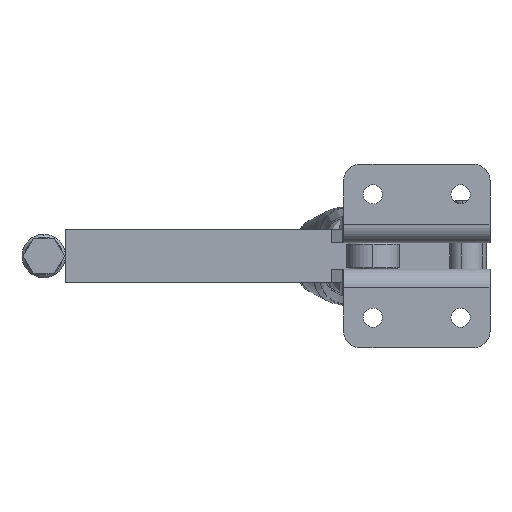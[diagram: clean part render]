
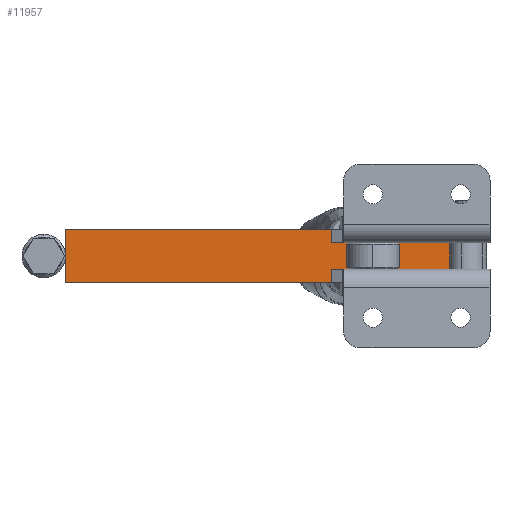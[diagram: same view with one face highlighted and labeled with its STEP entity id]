
A CAD part, front view. The second image highlights one B-rep face of the part: STEP entity #11957.
In plain terms, the highlighted planar face has unit normal (0.001, -1, 0).
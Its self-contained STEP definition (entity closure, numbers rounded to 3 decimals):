
#8 = ORIENTED_EDGE ( 'NONE', *, *, #13765, .T. ) ;
#503 = EDGE_CURVE ( 'NONE', #1198, #13171, #17092, .T. ) ;
#758 = EDGE_CURVE ( 'NONE', #13171, #8190, #9251, .T. ) ;
#1198 = VERTEX_POINT ( 'NONE', #22774 ) ;
#1246 = VECTOR ( 'NONE', #14734, 1000. ) ;
#2374 = EDGE_CURVE ( 'NONE', #10499, #1198, #18229, .T. ) ;
#3147 = VECTOR ( 'NONE', #6697, 1000. ) ;
#4389 = DIRECTION ( 'NONE',  ( 0., 0., 1. ) ) ;
#4405 = ORIENTED_EDGE ( 'NONE', *, *, #12659, .T. ) ;
#4504 = PLANE ( 'NONE',  #12157 ) ;
#6209 = LINE ( 'NONE', #9102, #1246 ) ;
#6326 = CARTESIAN_POINT ( 'NONE',  ( -9.525, -9.525, 0. ) ) ;
#6378 = DIRECTION ( 'NONE',  ( 0., -1., 0. ) ) ;
#6697 = DIRECTION ( 'NONE',  ( 1., 0., 0. ) ) ;
#6798 = DIRECTION ( 'NONE',  ( 1., 0., 0. ) ) ;
#7306 = VECTOR ( 'NONE', #4389, 1000. ) ;
#7426 = VERTEX_POINT ( 'NONE', #14351 ) ;
#8010 = VERTEX_POINT ( 'NONE', #23392 ) ;
#8190 = VERTEX_POINT ( 'NONE', #13271 ) ;
#8372 = VECTOR ( 'NONE', #10321, 1000. ) ;
#8902 = CARTESIAN_POINT ( 'NONE',  ( -9.525, -9.525, -4.775 ) ) ;
#9102 = CARTESIAN_POINT ( 'NONE',  ( -56.49, -9.525, -4.775 ) ) ;
#9251 = LINE ( 'NONE', #13681, #18524 ) ;
#9280 = LINE ( 'NONE', #17364, #18556 ) ;
#9571 = CARTESIAN_POINT ( 'NONE',  ( -153.8, -9.525, -19.05 ) ) ;
#10321 = DIRECTION ( 'NONE',  ( 0., 0., 1. ) ) ;
#10344 = CARTESIAN_POINT ( 'NONE',  ( -56.49, -9.525, -14.275 ) ) ;
#10499 = VERTEX_POINT ( 'NONE', #21892 ) ;
#10737 = EDGE_CURVE ( 'NONE', #14620, #8010, #21458, .T. ) ;
#11957 = ADVANCED_FACE ( 'NONE', ( #21127 ), #4504, .T. ) ;
#12157 = AXIS2_PLACEMENT_3D ( 'NONE', #13791, #6378, #19323 ) ;
#12518 = LINE ( 'NONE', #10344, #3147 ) ;
#12550 = EDGE_CURVE ( 'NONE', #7426, #15586, #9280, .T. ) ;
#12659 = EDGE_CURVE ( 'NONE', #8010, #7426, #12518, .T. ) ;
#12699 = CARTESIAN_POINT ( 'NONE',  ( -56.49, -9.525, 0. ) ) ;
#12776 = LINE ( 'NONE', #14751, #21361 ) ;
#12909 = DIRECTION ( 'NONE',  ( 1., 0., 0. ) ) ;
#13171 = VERTEX_POINT ( 'NONE', #12699 ) ;
#13271 = CARTESIAN_POINT ( 'NONE',  ( -56.49, -9.525, -4.775 ) ) ;
#13446 = DIRECTION ( 'NONE',  ( 0., 0., -1. ) ) ;
#13681 = CARTESIAN_POINT ( 'NONE',  ( -56.49, -9.525, 0. ) ) ;
#13754 = ORIENTED_EDGE ( 'NONE', *, *, #12550, .T. ) ;
#13765 = EDGE_CURVE ( 'NONE', #10499, #14620, #12776, .T. ) ;
#13791 = CARTESIAN_POINT ( 'NONE',  ( -9.525, -9.525, -19.05 ) ) ;
#14351 = CARTESIAN_POINT ( 'NONE',  ( -9.525, -9.525, -14.275 ) ) ;
#14620 = VERTEX_POINT ( 'NONE', #16249 ) ;
#14734 = DIRECTION ( 'NONE',  ( 1., 0., 0. ) ) ;
#14751 = CARTESIAN_POINT ( 'NONE',  ( -9.525, -9.525, -19.05 ) ) ;
#14768 = ORIENTED_EDGE ( 'NONE', *, *, #18199, .F. ) ;
#15406 = ORIENTED_EDGE ( 'NONE', *, *, #503, .F. ) ;
#15531 = DIRECTION ( 'NONE',  ( 0., 0., 1. ) ) ;
#15539 = CARTESIAN_POINT ( 'NONE',  ( -56.49, -9.525, -19.05 ) ) ;
#15586 = VERTEX_POINT ( 'NONE', #8902 ) ;
#16249 = CARTESIAN_POINT ( 'NONE',  ( -56.49, -9.525, -19.05 ) ) ;
#17092 = LINE ( 'NONE', #6326, #18252 ) ;
#17364 = CARTESIAN_POINT ( 'NONE',  ( -9.525, -9.525, -19.05 ) ) ;
#18199 = EDGE_CURVE ( 'NONE', #8190, #15586, #6209, .T. ) ;
#18229 = LINE ( 'NONE', #9571, #8372 ) ;
#18252 = VECTOR ( 'NONE', #6798, 1000. ) ;
#18524 = VECTOR ( 'NONE', #13446, 1000. ) ;
#18556 = VECTOR ( 'NONE', #15531, 1000. ) ;
#19288 = EDGE_LOOP ( 'NONE', ( #20379, #4405, #13754, #14768, #19892, #15406, #22028, #8 ) ) ;
#19323 = DIRECTION ( 'NONE',  ( 1., 0., 0. ) ) ;
#19892 = ORIENTED_EDGE ( 'NONE', *, *, #758, .F. ) ;
#20379 = ORIENTED_EDGE ( 'NONE', *, *, #10737, .T. ) ;
#21127 = FACE_OUTER_BOUND ( 'NONE', #19288, .T. ) ;
#21361 = VECTOR ( 'NONE', #12909, 1000. ) ;
#21458 = LINE ( 'NONE', #15539, #7306 ) ;
#21892 = CARTESIAN_POINT ( 'NONE',  ( -153.8, -9.525, -19.05 ) ) ;
#22028 = ORIENTED_EDGE ( 'NONE', *, *, #2374, .F. ) ;
#22774 = CARTESIAN_POINT ( 'NONE',  ( -153.8, -9.525, 0. ) ) ;
#23392 = CARTESIAN_POINT ( 'NONE',  ( -56.49, -9.525, -14.275 ) ) ;
